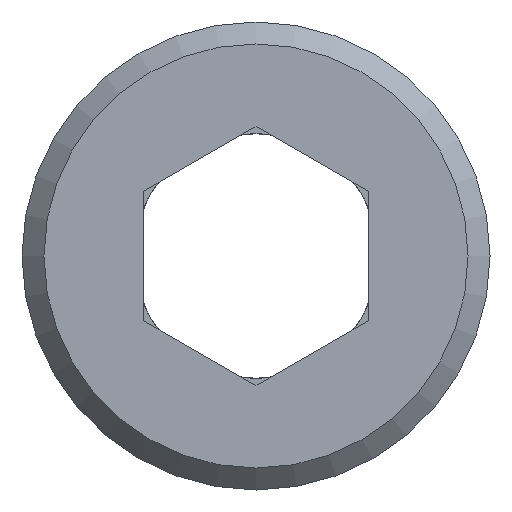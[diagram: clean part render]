
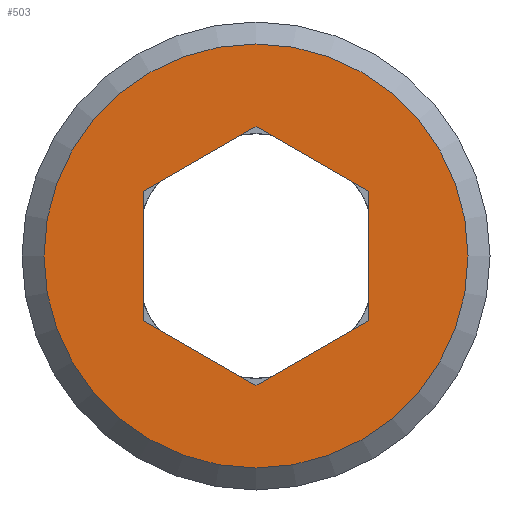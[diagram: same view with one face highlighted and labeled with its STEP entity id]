
A CAD part, front view. The second image highlights one B-rep face of the part: STEP entity #503.
In plain terms, the highlighted planar face has unit normal (0, -1, 0).
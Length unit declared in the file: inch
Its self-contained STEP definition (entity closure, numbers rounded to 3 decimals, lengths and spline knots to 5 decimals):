
#19=FACE_BOUND('',#85,.T.);
#52=FACE_OUTER_BOUND('',#84,.T.);
#84=EDGE_LOOP('',(#417));
#85=EDGE_LOOP('',(#418,#419,#420,#421,#422,#423));
#103=LINE('',#803,#139);
#107=LINE('',#809,#143);
#110=LINE('',#814,#146);
#113=LINE('',#819,#149);
#116=LINE('',#824,#152);
#119=LINE('',#828,#155);
#139=VECTOR('',#629,0.3937);
#143=VECTOR('',#635,0.3937);
#146=VECTOR('',#640,0.3937);
#149=VECTOR('',#645,0.3937);
#152=VECTOR('',#650,0.3937);
#155=VECTOR('',#655,0.3937);
#189=CIRCLE('',#572,0.295);
#217=VERTEX_POINT('',#801);
#218=VERTEX_POINT('',#802);
#219=VERTEX_POINT('',#808);
#220=VERTEX_POINT('',#813);
#221=VERTEX_POINT('',#818);
#222=VERTEX_POINT('',#823);
#234=VERTEX_POINT('',#873);
#262=EDGE_CURVE('',#217,#218,#103,.T.);
#266=EDGE_CURVE('',#219,#217,#107,.T.);
#269=EDGE_CURVE('',#220,#219,#110,.T.);
#272=EDGE_CURVE('',#221,#220,#113,.T.);
#275=EDGE_CURVE('',#222,#221,#116,.T.);
#278=EDGE_CURVE('',#218,#222,#119,.T.);
#300=EDGE_CURVE('',#234,#234,#189,.T.);
#417=ORIENTED_EDGE('',*,*,#300,.F.);
#418=ORIENTED_EDGE('',*,*,#275,.T.);
#419=ORIENTED_EDGE('',*,*,#272,.T.);
#420=ORIENTED_EDGE('',*,*,#269,.T.);
#421=ORIENTED_EDGE('',*,*,#266,.T.);
#422=ORIENTED_EDGE('',*,*,#262,.T.);
#423=ORIENTED_EDGE('',*,*,#278,.T.);
#476=PLANE('',#578);
#503=ADVANCED_FACE('',(#52,#19),#476,.T.);
#572=AXIS2_PLACEMENT_3D('',#874,#720,#721);
#578=AXIS2_PLACEMENT_3D('',#886,#734,#735);
#629=DIRECTION('',(-0.866,0.,0.5));
#635=DIRECTION('',(-0.866,0.,-0.5));
#640=DIRECTION('',(0.,0.,-1.));
#645=DIRECTION('',(0.866,0.,-0.5));
#650=DIRECTION('',(0.866,0.,0.5));
#655=DIRECTION('',(0.,0.,1.));
#720=DIRECTION('center_axis',(0.,1.,0.));
#721=DIRECTION('ref_axis',(0.,0.,1.));
#734=DIRECTION('center_axis',(0.,-1.,0.));
#735=DIRECTION('ref_axis',(0.,0.,-1.));
#801=CARTESIAN_POINT('',(0.,0.,-0.18013));
#802=CARTESIAN_POINT('',(-0.156,0.,-0.09007));
#803=CARTESIAN_POINT('',(-0.00523,0.,-0.17712));
#808=CARTESIAN_POINT('',(0.156,0.,-0.09007));
#809=CARTESIAN_POINT('',(0.08323,0.,-0.13208));
#813=CARTESIAN_POINT('',(0.156,0.,0.09007));
#814=CARTESIAN_POINT('',(0.156,0.,-0.03297));
#818=CARTESIAN_POINT('',(0.,0.,0.18013));
#819=CARTESIAN_POINT('',(0.07277,0.,0.13812));
#823=CARTESIAN_POINT('',(-0.156,0.,0.09007));
#824=CARTESIAN_POINT('',(-0.15077,0.,0.09308));
#828=CARTESIAN_POINT('',(-0.156,0.,-0.12303));
#873=CARTESIAN_POINT('',(0.,0.,-0.295));
#874=CARTESIAN_POINT('Origin',(0.,0.,0.));
#886=CARTESIAN_POINT('Origin',(0.,0.,-0.156));
